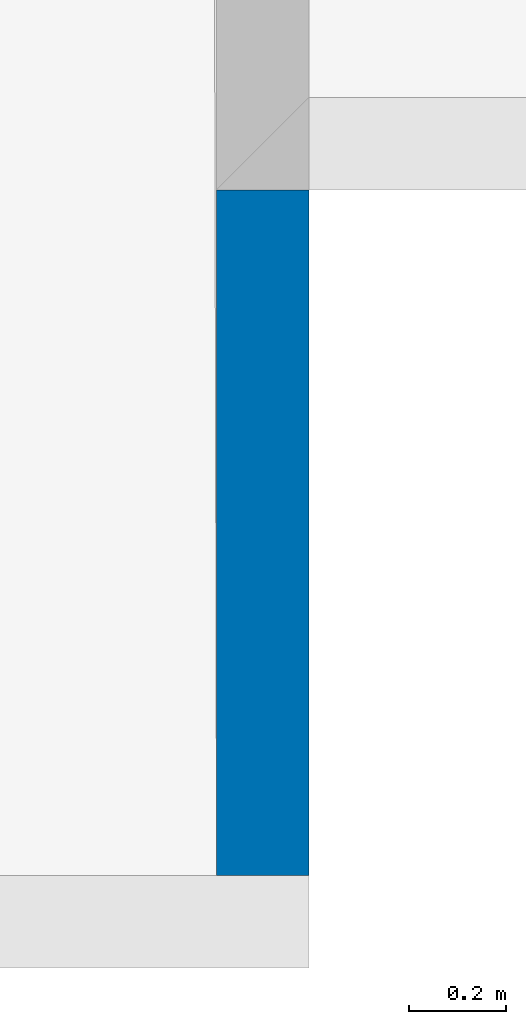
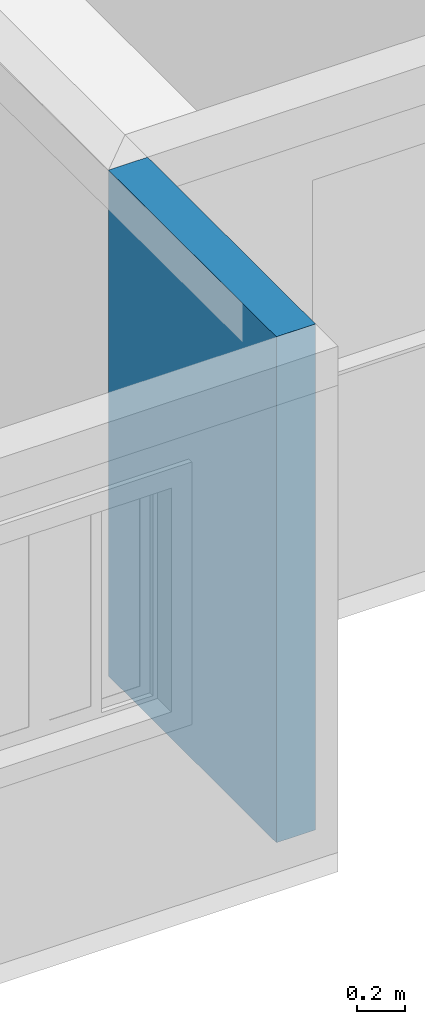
# One storey, part 14 of 43: 1 wall.
"""IFC2X3 building model written with IfcOpenShell, lengths in millimetres."""

from ifc_helpers import new_model, entity, si_unit, converted_unit, derived_unit, money_unit, direction, frame, origin_with_axes, place, context, subcontext, project, spatial, polyline, outline, extrude, material, layer, layer_set, layer_usage, type_object, element, save


model = new_model("IFC2X3")

# Units and contexts
model_context = context("Model", 3, precision=0.01, world=origin_with_axes(), true_north=direction((0.0, 1.0)))
body_context = subcontext(model_context, "Body", "Model", "MODEL_VIEW")
ifc_project = project(units=[si_unit("LENGTHUNIT", "METRE", prefix="MILLI"), si_unit("AREAUNIT", "SQUARE_METRE"), si_unit("VOLUMEUNIT", "CUBIC_METRE"), converted_unit("PLANEANGLEUNIT", "DEGREE", entity("IfcPlaneAngleMeasure", 0.0174532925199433), si_unit("PLANEANGLEUNIT", "RADIAN"), dimensions=[0, 0, 0, 0, 0, 0, 0]), money_unit("USD"), converted_unit("TIMEUNIT", "Year", entity("IfcTimeMeasure", 31557600.0), si_unit("TIMEUNIT", "SECOND"), dimensions=[0, 0, 1, 0, 0, 0, 0]), si_unit("MASSUNIT", "GRAM", prefix="KILO"), si_unit("THERMODYNAMICTEMPERATUREUNIT", "DEGREE_CELSIUS"), si_unit("LUMINOUSINTENSITYUNIT", "LUMEN"), si_unit("ENERGYUNIT", "JOULE", prefix="MEGA"), derived_unit("THERMALCONDUCTANCEUNIT", [(si_unit("POWERUNIT", "WATT"), 1), (si_unit("LENGTHUNIT", "METRE"), -1), (si_unit("THERMODYNAMICTEMPERATUREUNIT", "KELVIN"), -1)]), derived_unit("SPECIFICHEATCAPACITYUNIT", [(si_unit("ENERGYUNIT", "JOULE"), 1), (si_unit("MASSUNIT", "GRAM", prefix="KILO"), -1), (si_unit("THERMODYNAMICTEMPERATUREUNIT", "KELVIN"), -1)]), derived_unit("MASSDENSITYUNIT", [(si_unit("MASSUNIT", "GRAM", prefix="KILO"), 1), (si_unit("VOLUMEUNIT", "CUBIC_METRE"), -1)])], contexts=[model_context])

# Site, building, storey
site_placement = place(None, origin_with_axes())
site = spatial("IfcSite", under=ifc_project, at=site_placement, Name="Local", CompositionType="ELEMENT")
building_placement = place(site_placement, origin_with_axes())
building = spatial("IfcBuilding", under=site, at=building_placement, Name="Construção", CompositionType="ELEMENT")
storey_placement = place(building_placement, origin_with_axes())
storey = spatial("IfcBuildingStorey", under=building, at=storey_placement, Name="Pavimento Tipo", CompositionType="ELEMENT", Elevation=0.0)

# Wall
ifc_material = material(Name="Concreto - Estrutural")
ifc_layer = layer(ifc_material, 190.0, ventilated="UNKNOWN")
ifc_layer_set = layer_set([ifc_layer], Name="Concreto - Estrutural 190")
ifc_layer_usage = layer_usage(ifc_layer_set, "AXIS2", "POSITIVE", 0.0)
wall_type = type_object("IfcWallType", Name="Concreto - Estrutural 190", PredefinedType="NOTDEFINED")
wall_placement = place(storey_placement, frame((69889.5072642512, -6757.584102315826, 0.0), z_axis=(0.0, 0.0, 1.0), x_axis=(1.902976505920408e-05, -0.9999999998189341, 0.0)))
element("IfcWallStandardCase", 1, at=wall_placement, inside=storey, type_object=wall_type, material=ifc_layer_usage, Name="Apartamento 4 - Parede-004", context=body_context, shape_type="SweptSolid", body=[
    extrude(outline(polyline([(0.0, 0.0), (1412.857809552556, 0.0), (1412.861425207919, 189.9999999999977), (0.0, 189.9999999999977), (0.0, 0.0)])), origin_with_axes(), (0.0, 0.0, 1.0), 2600.0),
])

save(model, "model.ifc")
